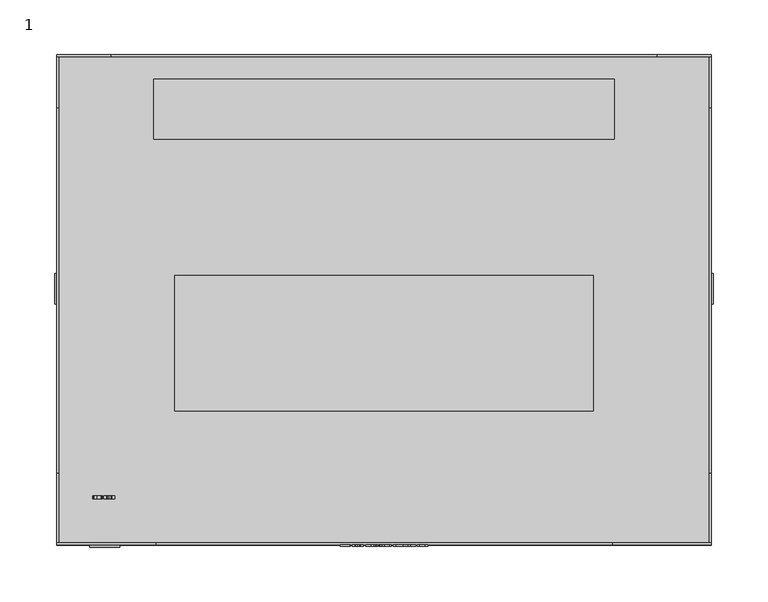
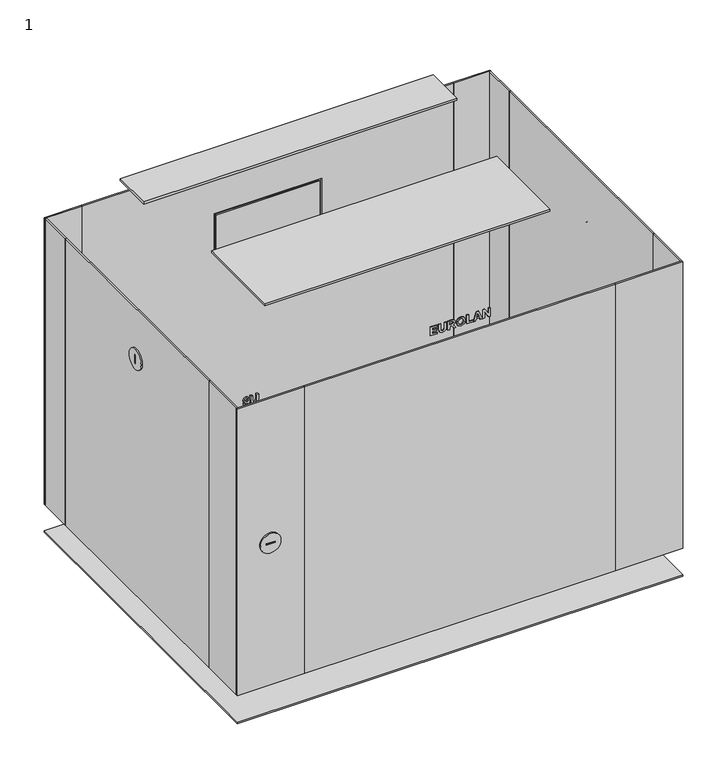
"""IFC4 building model written with IfcOpenShell, lengths in millimetres: proxy geometry, 1 : 9U 450мм стеклянная дверь."""

from ifc_helpers import new_model, si_unit, point, frame, frame_2d, origin, origin_with_axes, place, context, project, spatial, polyline, circle_curve, trimmed, segment, composite_curve, outline, extrude, source, transform, mapped, element, save


def proxy_1_57a666f4(model_context):
    return source(origin(), model_context, "Body", "SweptSolid", [
        extrude(outline(polyline([(462.0, -40.3245382), (462.0, -30.9964522), (464.1376864, -30.9964522), (464.1376864, -37.9925167), (467.2470483, -37.9925167), (467.2470483, -31.5794576), (469.3847347, -31.5794576), (469.3847347, -37.9925167), (472.1054264, -37.9925167), (472.1054264, -31.1907874), (474.2431128, -31.1907874), (474.2431128, -40.3245382), (462.0, -40.3245382)])), frame((0.0, -226.0, 0.0), z_axis=(0.0, 1.0, 0.0), x_axis=(0.0, 0.0, 1.0)), (0.0, 0.0, 1.0), 1.0),
        extrude(outline(polyline([(474.2431128, -29.053101), (467.7207402, -29.053101), (464.6174512, -28.8071456), (463.2601418, -28.1026808), (462.2095176, -26.6482039), (461.8056649, -23.9487675), (462.1761162, -21.5575346), (463.173602, -20.0954664), (464.7085458, -19.3454543), (467.8209443, -19.1420097), (474.2431128, -19.1420097), (474.2431128, -21.4740312), (467.4960402, -21.4740312), (465.4236383, -21.5924541), (464.3714958, -22.2923642), (463.9433512, -24.0216432), (464.3973059, -25.7979877), (465.5982363, -26.6208755), (467.6387551, -26.7210795), (474.2431128, -26.7210795), (474.2431128, -29.053101)])), frame((0.0, -226.0, 0.0), z_axis=(0.0, 1.0, 0.0), x_axis=(0.0, 0.0, 1.0)), (0.0, 0.0, 1.0), 1.0),
        extrude(outline(polyline([(462.0, -16.8099882), (462.0, -14.4779667), (467.0527132, -13.9435451), (466.9251808, -12.6120459), (466.4560437, -11.8164865), (464.7966039, -10.4242575), (462.0, -8.6509495), (462.0, -5.9272213), (464.3745323, -7.424209), (466.3512849, -8.7238252), (467.3715443, -9.9475291), (468.5071902, -7.6625732), (470.7936644, -6.8988969), (472.7339791, -7.4272455), (473.9121358, -8.8361752), (474.2431128, -11.6601074), (474.2431128, -16.8099882), (462.0, -16.8099882)]), holes=[polyline([(469.1903996, -14.4779667), (472.1054264, -14.4779667), (472.1054264, -12.4495939), (472.0659521, -10.5548264), (471.6150339, -9.5770778), (470.6782779, -9.2309184), (469.817434, -9.4935744), (469.3315962, -10.2223312), (469.1903996, -12.5558709), (469.1903996, -14.4779667)])]), frame((0.0, -226.0, 0.0), z_axis=(0.0, 1.0, 0.0), x_axis=(0.0, 0.0, 1.0)), (0.0, 0.0, 1.0), 1.0),
        extrude(outline(polyline([(468.0456442, -4.9555457), (463.4681411, -3.3735363), (461.8056649, 0.8896905), (463.4757323, 5.1225524), (468.106374, 6.7045618), (472.7628257, 5.1104065), (474.4374479, 0.8593256), (473.9546466, -1.7338337), (472.8539203, -3.2869964), (471.1792981, -4.4059416), (468.0456442, -4.9555457)]), holes=[polyline([(468.1306659, -2.6235242), (471.2612832, -1.6579215), (472.2997616, 0.886654), (471.2734292, 3.4190836), (468.1640672, 4.3725403), (464.9985302, 3.3932735), (463.9433512, 0.886654), (465.0061214, -1.6321114), (468.1306659, -2.6235242)])]), frame((0.0, -226.0, 0.0), z_axis=(0.0, 1.0, 0.0), x_axis=(0.0, 0.0, 1.0)), (0.0, 0.0, 1.0), 1.0),
        extrude(outline(polyline([(462.0, 8.647913), (462.0, 17.1986585), (464.1376864, 17.1986585), (464.1376864, 10.9799345), (474.2431128, 10.9799345), (474.2431128, 8.647913), (462.0, 8.647913)])), frame((0.0, -226.0, 0.0), z_axis=(0.0, 1.0, 0.0), x_axis=(0.0, 0.0, 1.0)), (0.0, 0.0, 1.0), 1.0),
        extrude(outline(polyline([(462.0, 29.2474361), (474.2431128, 24.7352175), (474.2431128, 22.2513717), (462.0, 17.7816638), (462.0, 20.2655096), (464.7206917, 21.2128934), (464.7206917, 25.837462), (462.0, 26.7969917), (462.0, 29.2474361)]), holes=[polyline([(466.8583781, 25.0904864), (466.8583781, 21.959869), (471.3280859, 23.51455), (466.8583781, 25.0904864)])]), frame((0.0, -226.0, 0.0), z_axis=(0.0, 1.0, 0.0), x_axis=(0.0, 0.0, 1.0)), (0.0, 0.0, 1.0), 1.0),
        extrude(outline(polyline([(462.0, 30.4134469), (462.0, 32.7454684), (470.1195644, 32.7454684), (462.0, 37.8042546), (462.0, 40.3245382), (474.2431128, 40.3245382), (474.2431128, 37.9925167), (466.002089, 37.9925167), (474.2431128, 32.8578184), (474.2431128, 30.4134469), (462.0, 30.4134469)])), frame((0.0, -226.0, 0.0), z_axis=(0.0, 1.0, 0.0), x_axis=(0.0, 0.0, 1.0)), (0.0, 0.0, 1.0), 1.0),
        extrude(outline(composite_curve([segment(trimmed(circle_curve(frame_2d((9.997621, 377.4611412)), 14.0), [point((-4.002379, 377.4611412))], [point((23.997621, 377.4611412))], False, "CARTESIAN"), True, "CONTINUOUS"), segment(trimmed(circle_curve(frame_2d((9.997621, 377.4611412)), 14.0), [point((23.997621, 377.4611412))], [point((-4.002379, 377.4611412))], False, "CARTESIAN"), True, "CONTINUOUS")], self_intersect=False), holes=[polyline([(11.0, 383.5), (9.0, 383.5), (9.0, 371.5), (11.0, 371.5), (11.0, 383.5)])]), frame((-302.0, 0.0, 0.0), z_axis=(1.0, 0.0, 0.0), x_axis=(0.0, 1.0, 0.0)), (0.0, 0.0, 1.0), 2.0),
        extrude(outline(composite_curve([segment(trimmed(circle_curve(frame_2d((9.997621, 377.4611412)), 14.0), [point((-4.002379, 377.4611412))], [point((23.997621, 377.4611412))], False, "CARTESIAN"), True, "CONTINUOUS"), segment(trimmed(circle_curve(frame_2d((9.997621, 377.4611412)), 14.0), [point((23.997621, 377.4611412))], [point((-4.002379, 377.4611412))], False, "CARTESIAN"), True, "CONTINUOUS")], self_intersect=False), holes=[polyline([(11.0, 383.5), (9.0, 383.5), (9.0, 371.5), (11.0, 371.5), (11.0, 383.5)])]), frame((300.0, 0.0, 0.0), z_axis=(1.0, 0.0, 0.0), x_axis=(0.0, 1.0, 0.0)), (0.0, 0.0, 1.0), 2.0),
        extrude(outline(composite_curve([segment(trimmed(circle_curve(frame_2d((243.0, -256.0)), 13.7647373), [point((243.0, -242.2352627))], [point((243.0, -269.7647373))], False, "CARTESIAN"), True, "CONTINUOUS"), segment(trimmed(circle_curve(frame_2d((243.0, -256.0)), 13.7647373), [point((243.0, -269.7647373))], [point((243.0, -242.2352627))], False, "CARTESIAN"), True, "CONTINUOUS")], self_intersect=False), holes=[polyline([(244.0, -250.0), (242.0, -250.0), (242.0, -262.0), (244.0, -262.0), (244.0, -250.0)])]), frame((0.0, -227.0, 0.0), z_axis=(0.0, 1.0, 0.0), x_axis=(0.0, 0.0, 1.0)), (0.0, 0.0, 1.0), 2.0),
        extrude(outline(polyline([(300.0, 225.0), (300.0, -225.0), (-300.0, -225.0), (-300.0, 225.0), (300.0, 225.0)])), origin_with_axes(), (0.0, 0.0, 1.0), 2.0),
        extrude(outline(polyline([(211.0, 202.5), (211.0, 147.5), (-211.0, 147.5), (-211.0, 202.5), (211.0, 202.5)])), frame((0.0, 0.0, 482.9795778), z_axis=(0.0, 0.0, 1.0), x_axis=(1.0, 0.0, 0.0)), (0.0, 0.0, 1.0), 3.0204222),
        extrude(outline(polyline([(192.0, 22.0), (192.0, -102.0), (-192.0, -102.0), (-192.0, 22.0), (192.0, 22.0)])), frame((0.0, 0.0, 482.9795778), z_axis=(0.0, 0.0, 1.0), x_axis=(1.0, 0.0, 0.0)), (0.0, 0.0, 1.0), 3.0204222),
        extrude(outline(polyline([(-69.5, 225.0), (69.5, 225.0), (69.5, 223.0), (-69.5, 223.0), (-69.5, 225.0)])), frame((0.0, 0.0, 323.0), z_axis=(0.0, 0.0, 1.0), x_axis=(1.0, 0.0, 0.0)), (0.0, 0.0, 1.0), 49.0),
        extrude(outline(polyline([(448.0, -250.0), (40.0, -250.0), (40.0, 250.0), (448.0, 250.0), (448.0, -250.0)]), holes=[polyline([(375.0, -72.5), (375.0, 72.5), (320.0, 72.5), (320.0, -72.5), (375.0, -72.5)])]), frame((0.0, 223.0, 0.0), z_axis=(0.0, 1.0, 0.0), x_axis=(0.0, 0.0, 1.0)), (0.0, 0.0, 1.0), 2.0),
        extrude(outline(polyline([(-300.0, 225.0), (-250.0, 225.0), (-250.0, 223.0), (-300.0, 223.0), (-300.0, 225.0)])), frame((0.0, 0.0, 40.0), z_axis=(0.0, 0.0, 1.0), x_axis=(1.0, 0.0, 0.0)), (0.0, 0.0, 1.0), 408.0),
        extrude(outline(polyline([(250.0, 225.0), (300.0, 225.0), (300.0, 223.0), (250.0, 223.0), (250.0, 225.0)])), frame((0.0, 0.0, 40.0), z_axis=(0.0, 0.0, 1.0), x_axis=(1.0, 0.0, 0.0)), (0.0, 0.0, 1.0), 408.0),
        extrude(outline(polyline([(-209.0, -223.0), (209.0, -223.0), (209.0, -225.0), (-209.0, -225.0), (-209.0, -223.0)])), frame((0.0, 0.0, 40.0), z_axis=(0.0, 0.0, 1.0), x_axis=(1.0, 0.0, 0.0)), (0.0, 0.0, 1.0), 408.0),
        extrude(outline(polyline([(209.0, -223.0), (300.0, -223.0), (300.0, -225.0), (209.0, -225.0), (209.0, -223.0)])), frame((0.0, 0.0, 40.0), z_axis=(0.0, 0.0, 1.0), x_axis=(1.0, 0.0, 0.0)), (0.0, 0.0, 1.0), 408.0),
        extrude(outline(polyline([(-300.0, -223.0), (-209.0, -223.0), (-209.0, -225.0), (-300.0, -225.0), (-300.0, -223.0)])), frame((0.0, 0.0, 40.0), z_axis=(0.0, 0.0, 1.0), x_axis=(1.0, 0.0, 0.0)), (0.0, 0.0, 1.0), 408.0),
        extrude(outline(polyline([(-298.0, 175.8155315), (-298.0, -158.7095641), (-300.0, -158.7095641), (-300.0, 175.8155315), (-298.0, 175.8155315)])), frame((0.0, 0.0, 40.0), z_axis=(0.0, 0.0, 1.0), x_axis=(1.0, 0.0, 0.0)), (0.0, 0.0, 1.0), 408.0),
        extrude(outline(polyline([(-298.0, -158.7095641), (-298.0, -225.0), (-300.0, -225.0), (-300.0, -158.7095641), (-298.0, -158.7095641)])), frame((0.0, 0.0, 40.0), z_axis=(0.0, 0.0, 1.0), x_axis=(1.0, 0.0, 0.0)), (0.0, 0.0, 1.0), 408.0),
        extrude(outline(polyline([(-298.0, 225.0), (-298.0, 175.8155315), (-300.0, 175.8155315), (-300.0, 225.0), (-298.0, 225.0)])), frame((0.0, 0.0, 40.0), z_axis=(0.0, 0.0, 1.0), x_axis=(1.0, 0.0, 0.0)), (0.0, 0.0, 1.0), 408.0),
        extrude(outline(polyline([(300.0, 175.8155315), (300.0, -158.7095641), (298.0, -158.7095641), (298.0, 175.8155315), (300.0, 175.8155315)])), frame((0.0, 0.0, 40.0), z_axis=(0.0, 0.0, 1.0), x_axis=(1.0, 0.0, 0.0)), (0.0, 0.0, 1.0), 408.0),
        extrude(outline(polyline([(300.0, 225.0), (300.0, 175.8155315), (298.0, 175.8155315), (298.0, 225.0), (300.0, 225.0)])), frame((0.0, 0.0, 40.0), z_axis=(0.0, 0.0, 1.0), x_axis=(1.0, 0.0, 0.0)), (0.0, 0.0, 1.0), 408.0),
        extrude(outline(polyline([(300.0, -158.7095641), (300.0, -225.0), (298.0, -225.0), (298.0, -158.7095641), (300.0, -158.7095641)])), frame((0.0, 0.0, 40.0), z_axis=(0.0, 0.0, 1.0), x_axis=(1.0, 0.0, 0.0)), (0.0, 0.0, 1.0), 408.0),
        extrude(outline(polyline([(416.2414631, -266.2387962), (413.8062011, -265.1547706), (412.9924228, -262.9381356), (414.4696734, -259.8469925), (419.2870589, -258.6597264), (423.9981674, -259.7953723), (425.4298707, -262.7012897), (424.3169985, -265.3809888), (421.3852709, -266.4331314), (418.550711, -265.4083172), (417.4621306, -262.971537), (418.476317, -260.8065222), (415.7753625, -261.4290019), (415.1301091, -262.6071586), (415.4641226, -263.4922944), (416.490455, -263.9067747), (416.2414631, -266.2387962)]), holes=[polyline([(421.3306142, -260.9917479), (420.0385892, -261.4365931), (419.599817, -262.5312464), (420.0568082, -263.6517099), (421.4885115, -264.1011099), (422.8701127, -263.6881477), (423.2921843, -262.6496694), (422.7774999, -261.4927681), (421.3306142, -260.9917479)])]), frame((0.0, -182.6777479, 0.0), z_axis=(0.0, 1.0, 0.0), x_axis=(0.0, 0.0, 1.0)), (0.0, 0.0, 1.0), 3.0),
        extrude(outline(polyline([(425.4298707, -256.7163752), (418.9074981, -256.7163752), (415.8042091, -256.4704198), (414.4468997, -255.7659549), (413.3962754, -254.311478), (412.9924228, -251.6120417), (413.3628741, -249.2208087), (414.3603599, -247.7587405), (415.8953037, -247.0087284), (419.0077021, -246.8052838), (425.4298707, -246.8052838), (425.4298707, -249.1373053), (418.6827981, -249.1373053), (416.6103962, -249.2557283), (415.5582537, -249.9556384), (415.1301091, -251.6849173), (415.5840638, -253.4612618), (416.7849942, -254.2841496), (418.825513, -254.3843537), (425.4298707, -254.3843537), (425.4298707, -256.7163752)])), frame((0.0, -182.6777479, 0.0), z_axis=(0.0, 1.0, 0.0), x_axis=(0.0, 0.0, 1.0)), (0.0, 0.0, 1.0), 3.0),
        extrude(outline(polyline([(376.4962498, -264.3865396), (375.2254803, -265.9397023), (373.4172527, -266.4331314), (370.6024299, -265.1669166), (369.7339948, -262.4826627), (370.784619, -259.7042777), (373.5174567, -258.6597264), (375.3120201, -259.1865568), (376.4962498, -260.7245371), (377.508918, -259.3444541), (379.0226064, -258.8540615), (381.280234, -259.8227007), (382.1714427, -262.5464289), (381.280234, -265.2777483), (379.0226064, -266.2387962), (377.5499105, -265.7985057), (376.4962498, -264.3865396)]), holes=[polyline([(378.8798915, -263.9067747), (380.000355, -263.5332869), (380.4224266, -262.5312464), (380.0033915, -261.5550161), (378.889001, -261.186083), (377.7320997, -261.5595708), (377.3130646, -262.5555383), (377.727545, -263.5378417), (378.8798915, -263.9067747)]), polyline([(373.6146243, -264.1011099), (374.94916, -263.7169943), (375.5640485, -262.5494654), (375.0220357, -261.4320384), (373.5872959, -260.9917479), (372.0250237, -261.4244472), (371.4830109, -262.5191005), (372.0462791, -263.6486734), (373.6146243, -264.1011099)])]), frame((0.0, -182.6777479, 0.0), z_axis=(0.0, 1.0, 0.0), x_axis=(0.0, 0.0, 1.0)), (0.0, 0.0, 1.0), 3.0),
        extrude(outline(polyline([(382.1714427, -256.7163752), (375.6490701, -256.7163752), (372.5457811, -256.4704198), (371.1884717, -255.7659549), (370.1378475, -254.311478), (369.7339948, -251.6120417), (370.1044461, -249.2208087), (371.1019319, -247.7587405), (372.6368757, -247.0087284), (375.7492742, -246.8052838), (382.1714427, -246.8052838), (382.1714427, -249.1373053), (375.4243701, -249.1373053), (373.3519682, -249.2557283), (372.2998257, -249.9556384), (371.8716811, -251.6849173), (372.3256358, -253.4612618), (373.5265662, -254.2841496), (375.567085, -254.3843537), (382.1714427, -254.3843537), (382.1714427, -256.7163752)])), frame((0.0, -182.6777479, 0.0), z_axis=(0.0, 1.0, 0.0), x_axis=(0.0, 0.0, 1.0)), (0.0, 0.0, 1.0), 3.0),
        extrude(outline(polyline([(334.6450861, -266.4331314), (334.6450861, -261.3257614), (330.0129262, -264.008497), (324.9283299, -265.0727855), (324.9283299, -262.740764), (328.5812229, -262.2154519), (332.440597, -260.6622891), (335.2280915, -258.6597264), (336.9771076, -258.6597264), (336.9771076, -266.4331314), (334.6450861, -266.4331314)])), frame((0.0, -182.6777479, 0.0), z_axis=(0.0, 1.0, 0.0), x_axis=(0.0, 0.0, 1.0)), (0.0, 0.0, 1.0), 3.0),
        extrude(outline(polyline([(337.1714427, -256.7163752), (330.6490701, -256.7163752), (327.5457811, -256.4704198), (326.1884717, -255.7659549), (325.1378475, -254.311478), (324.7339948, -251.6120417), (325.1044461, -249.2208087), (326.1019319, -247.7587405), (327.6368757, -247.0087284), (330.7492742, -246.8052838), (337.1714427, -246.8052838), (337.1714427, -249.1373053), (330.4243701, -249.1373053), (328.3519682, -249.2557283), (327.2998257, -249.9556384), (326.8716811, -251.6849173), (327.3256358, -253.4612618), (328.5265662, -254.2841496), (330.567085, -254.3843537), (337.1714427, -254.3843537), (337.1714427, -256.7163752)])), frame((0.0, -182.6777479, 0.0), z_axis=(0.0, 1.0, 0.0), x_axis=(0.0, 0.0, 1.0)), (0.0, 0.0, 1.0), 3.0),
        extrude(outline(polyline([(287.6111434, -258.8540615), (290.0281866, -259.9654155), (290.8601838, -262.1668681), (289.381415, -265.2473834), (284.5534017, -266.4331314), (279.8559574, -265.2974855), (278.4227359, -262.4006775), (279.5325716, -259.7073142), (282.4764451, -258.6597264), (285.2973409, -259.6845405), (286.390476, -262.1486492), (285.3671801, -264.2802626), (288.0772441, -263.6638558), (288.7224974, -262.4674802), (288.3900022, -261.5990451), (287.3621516, -261.186083), (287.6111434, -258.8540615)]), holes=[polyline([(282.5280654, -264.1011099), (283.8155356, -263.6532281), (284.2527896, -262.5585748), (283.7957984, -261.4396296), (282.3549856, -260.9917479), (280.9794573, -261.4077465), (280.5604222, -262.4462248), (281.0720702, -263.5970531), (282.5280654, -264.1011099)])]), frame((0.0, -182.6777479, 0.0), z_axis=(0.0, 1.0, 0.0), x_axis=(0.0, 0.0, 1.0)), (0.0, 0.0, 1.0), 3.0),
        extrude(outline(polyline([(290.8601838, -256.7163752), (284.3378112, -256.7163752), (281.2345222, -256.4704198), (279.8772128, -255.7659549), (278.8265886, -254.311478), (278.4227359, -251.6120417), (278.7931872, -249.2208087), (279.790673, -247.7587405), (281.3256168, -247.0087284), (284.4380153, -246.8052838), (290.8601838, -246.8052838), (290.8601838, -249.1373053), (284.1131112, -249.1373053), (282.0407093, -249.2557283), (280.9885668, -249.9556384), (280.5604222, -251.6849173), (281.0143769, -253.4612618), (282.2153073, -254.2841496), (284.2558261, -254.3843537), (290.8601838, -254.3843537), (290.8601838, -256.7163752)])), frame((0.0, -182.6777479, 0.0), z_axis=(0.0, 1.0, 0.0), x_axis=(0.0, 0.0, 1.0)), (0.0, 0.0, 1.0), 3.0),
        extrude(outline(polyline([(237.3503584, -266.4331314), (234.6964693, -265.1957632), (233.7096113, -262.522137), (235.2825112, -259.312571), (237.9029989, -258.4653913), (240.7679237, -259.4826142), (241.8716865, -261.960387), (241.3949581, -263.4634477), (243.6207026, -262.9927924), (243.6207026, -259.0483966), (245.9527241, -259.0483966), (245.9527241, -264.8784504), (239.0629366, -266.2387962), (238.7623245, -264.2164963), (239.7340001, -262.509991), (239.2633447, -261.2726229), (237.8513786, -260.7974128), (236.3467996, -261.3090607), (235.8472976, -262.5585748), (236.317953, -263.7002937), (237.5963138, -264.295445), (237.3503584, -266.4331314)])), frame((0.0, -182.6777479, 0.0), z_axis=(0.0, 1.0, 0.0), x_axis=(0.0, 0.0, 1.0)), (0.0, 0.0, 1.0), 3.0),
        extrude(outline(polyline([(246.1470592, -256.7163752), (239.6246866, -256.7163752), (236.5213976, -256.4704198), (235.1640882, -255.7659549), (234.113464, -254.311478), (233.7096113, -251.6120417), (234.0800626, -249.2208087), (235.0775484, -247.7587405), (236.6124922, -247.0087284), (239.7248907, -246.8052838), (246.1470592, -246.8052838), (246.1470592, -249.1373053), (239.3999866, -249.1373053), (237.3275847, -249.2557283), (236.2754422, -249.9556384), (235.8472976, -251.6849173), (236.3012523, -253.4612618), (237.5021827, -254.2841496), (239.5427015, -254.3843537), (246.1470592, -254.3843537), (246.1470592, -256.7163752)])), frame((0.0, -182.6777479, 0.0), z_axis=(0.0, 1.0, 0.0), x_axis=(0.0, 0.0, 1.0)), (0.0, 0.0, 1.0), 3.0),
        extrude(outline(polyline([(189.9283299, -262.1577586), (189.9283299, -259.8257371), (192.4546865, -259.8257371), (192.4546865, -258.2710562), (194.3980377, -258.2710562), (194.3980377, -259.8257371), (201.9771076, -259.8257371), (201.9771076, -261.848037), (194.3889283, -266.8218016), (192.4546865, -266.8218016), (192.4546865, -262.1577586), (189.9283299, -262.1577586)]), holes=[polyline([(194.3980377, -262.1577586), (194.3980377, -264.7630639), (198.3758348, -262.1577586), (194.3980377, -262.1577586)])]), frame((0.0, -182.6777479, 0.0), z_axis=(0.0, 1.0, 0.0), x_axis=(0.0, 0.0, 1.0)), (0.0, 0.0, 1.0), 3.0),
        extrude(outline(polyline([(202.1714427, -256.7163752), (195.6490701, -256.7163752), (192.5457811, -256.4704198), (191.1884717, -255.7659549), (190.1378475, -254.311478), (189.7339948, -251.6120417), (190.1044461, -249.2208087), (191.1019319, -247.7587405), (192.6368757, -247.0087284), (195.7492742, -246.8052838), (202.1714427, -246.8052838), (202.1714427, -249.1373053), (195.4243701, -249.1373053), (193.3519682, -249.2557283), (192.2998257, -249.9556384), (191.8716811, -251.6849173), (192.3256358, -253.4612618), (193.5265662, -254.2841496), (195.567085, -254.3843537), (202.1714427, -254.3843537), (202.1714427, -256.7163752)])), frame((0.0, -182.6777479, 0.0), z_axis=(0.0, 1.0, 0.0), x_axis=(0.0, 0.0, 1.0)), (0.0, 0.0, 1.0), 3.0),
        extrude(outline(polyline([(148.35045, -266.4331314), (145.734517, -265.2200551), (144.7339948, -262.5859032), (145.859013, -259.7847446), (148.5781864, -258.6597264), (150.4562532, -259.294352), (151.4567755, -260.9887114), (154.0286794, -259.2427318), (156.0691982, -260.0565101), (157.1714427, -262.6739613), (156.773663, -264.3971673), (155.6820462, -265.5965794), (153.8282713, -266.2387962), (153.4790753, -263.9067747), (154.6374949, -263.4892579), (155.0337563, -262.6587789), (154.6921516, -261.8708107), (153.776651, -261.5747533), (152.6956619, -261.9710147), (152.3130646, -263.1203248), (150.3909688, -263.3237694), (150.5640485, -262.397641), (150.0812472, -261.4001553), (148.7725216, -260.9917479), (147.3863656, -261.4381114), (146.8716811, -262.5403559), (147.3210811, -263.5757977), (148.6206973, -264.1011099), (148.35045, -266.4331314)])), frame((0.0, -182.6777479, 0.0), z_axis=(0.0, 1.0, 0.0), x_axis=(0.0, 0.0, 1.0)), (0.0, 0.0, 1.0), 3.0),
        extrude(outline(polyline([(157.1714427, -256.7163752), (150.6490701, -256.7163752), (147.5457811, -256.4704198), (146.1884717, -255.7659549), (145.1378475, -254.311478), (144.7339948, -251.6120417), (145.1044461, -249.2208087), (146.1019319, -247.7587405), (147.6368757, -247.0087284), (150.7492742, -246.8052838), (157.1714427, -246.8052838), (157.1714427, -249.1373053), (150.4243701, -249.1373053), (148.3519682, -249.2557283), (147.2998257, -249.9556384), (146.8716811, -251.6849173), (147.3256358, -253.4612618), (148.5265662, -254.2841496), (150.567085, -254.3843537), (157.1714427, -254.3843537), (157.1714427, -256.7163752)])), frame((0.0, -182.6777479, 0.0), z_axis=(0.0, 1.0, 0.0), x_axis=(0.0, 0.0, 1.0)), (0.0, 0.0, 1.0), 3.0),
        extrude(outline(polyline([(103.3014708, -258.8246798), (103.9391329, -262.7326376), (105.2660774, -261.4011384), (106.7964665, -259.9512162), (108.3298921, -259.094927), (109.8724272, -258.8246798), (112.2545507, -259.8115378), (113.2125621, -262.5261566), (112.3577912, -265.1527172), (109.5384137, -266.4037496), (109.3258596, -264.0717281), (110.6695048, -263.6223281), (111.0748758, -262.5777768), (110.6634319, -261.5347438), (109.4837569, -261.1567012), (108.0809003, -261.6061012), (106.1254031, -263.4097741), (103.2574418, -265.8541456), (100.9694493, -266.5980847), (100.9694493, -258.8246798), (103.3014708, -258.8246798)])), frame((0.0, -182.6777479, 0.0), z_axis=(0.0, 1.0, 0.0), x_axis=(0.0, 0.0, 1.0)), (0.0, 0.0, 1.0), 3.0),
        extrude(outline(polyline([(113.2125621, -256.8813285), (106.6901895, -256.8813285), (103.5869005, -256.6353731), (102.2295911, -255.9309083), (101.1789669, -254.4764314), (100.7751142, -251.776995), (101.1455655, -249.3857621), (102.1430513, -247.9236939), (103.6779951, -247.1736818), (106.7903936, -246.9702372), (113.2125621, -246.9702372), (113.2125621, -249.3022587), (106.4654895, -249.3022587), (104.3930876, -249.4206817), (103.3409451, -250.1205917), (102.9128006, -251.8498707), (103.3667553, -253.6262152), (104.5676856, -254.449103), (106.6082044, -254.549307), (113.2125621, -254.549307), (113.2125621, -256.8813285)])), frame((0.0, -182.6777479, 0.0), z_axis=(0.0, 1.0, 0.0), x_axis=(0.0, 0.0, 1.0)), (0.0, 0.0, 1.0), 3.0),
        extrude(outline(polyline([(59.9283299, -260.6030776), (72.1714427, -260.6030776), (72.1714427, -262.4614073), (70.2053178, -263.9037383), (69.0620807, -265.850126), (66.7300592, -265.850126), (68.6794834, -262.9350991), (59.9283299, -262.9350991), (59.9283299, -260.6030776)])), frame((0.0, -182.6777479, 0.0), z_axis=(0.0, 1.0, 0.0), x_axis=(0.0, 0.0, 1.0)), (0.0, 0.0, 1.0), 3.0),
        extrude(outline(polyline([(72.1714427, -256.7163752), (65.6490701, -256.7163752), (62.5457811, -256.4704198), (61.1884717, -255.7659549), (60.1378475, -254.311478), (59.7339948, -251.6120417), (60.1044461, -249.2208087), (61.1019319, -247.7587405), (62.6368757, -247.0087284), (65.7492742, -246.8052838), (72.1714427, -246.8052838), (72.1714427, -249.1373053), (65.4243701, -249.1373053), (63.3519682, -249.2557283), (62.2998257, -249.9556384), (61.8716811, -251.6849173), (62.3256358, -253.4612618), (63.5265662, -254.2841496), (65.567085, -254.3843537), (72.1714427, -254.3843537), (72.1714427, -256.7163752)])), frame((0.0, -182.6777479, 0.0), z_axis=(0.0, 1.0, 0.0), x_axis=(0.0, 0.0, 1.0)), (0.0, 0.0, 1.0), 3.0),
    ])


if __name__ == "__main__":
    model = new_model("IFC4")
    model_context = context("Model", 3, world=origin())
    ifc_project = project(units=[si_unit("LENGTHUNIT", "METRE", prefix="MILLI")], contexts=[model_context])
    site = spatial("IfcSite", under=ifc_project)
    building = spatial("IfcBuilding", under=site)
    placement = place(None, origin())
    proxy_1_shape = proxy_1_57a666f4(model_context)
    element("IfcBuildingElementProxy", 1, Name="1 : 9U 450мм стеклянная дверь", ObjectType="1 : 9U 450мм стеклянная дверь", at=placement, inside=building, context=model_context, shape_type="MappedRepresentation", body=[
        mapped(proxy_1_shape, transform((0.0, 0.0, 0.0), x_axis=(1.0, 0.0, 0.0), y_axis=(0.0, 1.0, 0.0), z_axis=(0.0, 0.0, 1.0))),
    ])
    save(model, "model.ifc")
